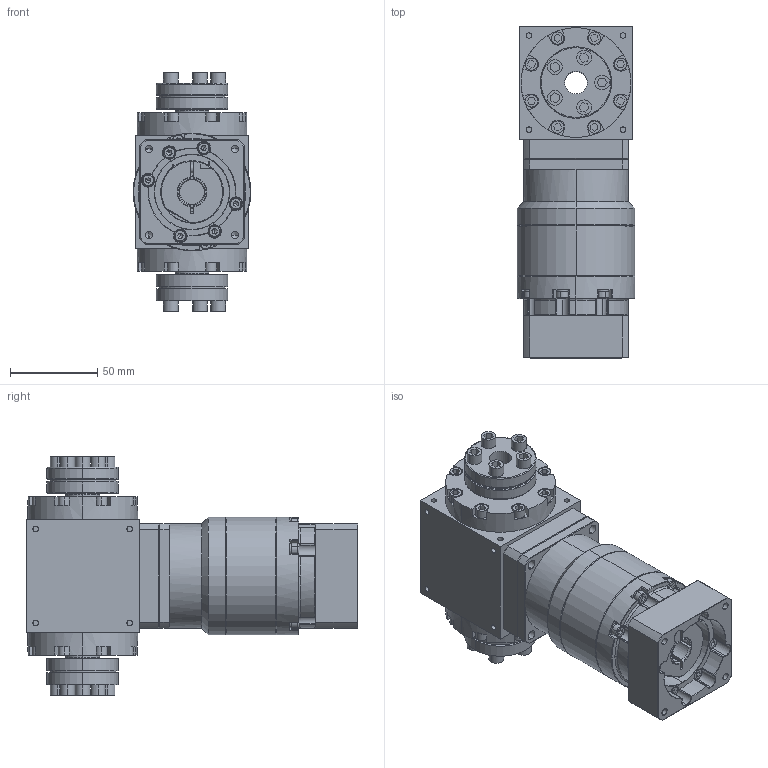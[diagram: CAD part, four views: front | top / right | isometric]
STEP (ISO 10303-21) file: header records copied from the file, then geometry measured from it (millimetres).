
FILE_DESCRIPTION (( 'STEP AP203' ), '1' );
FILE_NAME ('AT065-FC-L2 14-50-70-M5.STEP', '2024-12-18T06:32:37', ( '' ), ( '' ), 'SwSTEP 2.0', 'SolidWorks 2021', '' );
FILE_SCHEMA (( 'CONFIG_CONTROL_DESIGN' ));
Length unit declared in the file: millimetre
Products named in the file (3): AT065-FC; AT065-FC-L2 14-50-70-M5; VRB-060-L2-S2-P1 14-50-70-M5
Assembly tree (2 placements, depth 2):
  AT065-FC-L2 14-50-70-M5
    AT065-FC
    VRB-060-L2-S2-P1 14-50-70-M5
Bounding box: 67.5 x 190.5 x 137 mm (x, y, z)
Volume: 703753.2 mm3; surface area: 135641.4 mm2
Topology: 34 solids, 34 shells, 1618 faces, 4027 edges, 2542 vertices
Faces by surface type: plane 718, cylinder 598, cone 224, torus 54, bspline 24
Entity records: 49274 total; most frequent: CARTESIAN_POINT 10377, DIRECTION 8342, ORIENTED_EDGE 7938, EDGE_CURVE 3969, AXIS2_PLACEMENT_3D 3176, VERTEX_POINT 2542, VECTOR 1990, LINE 1990
